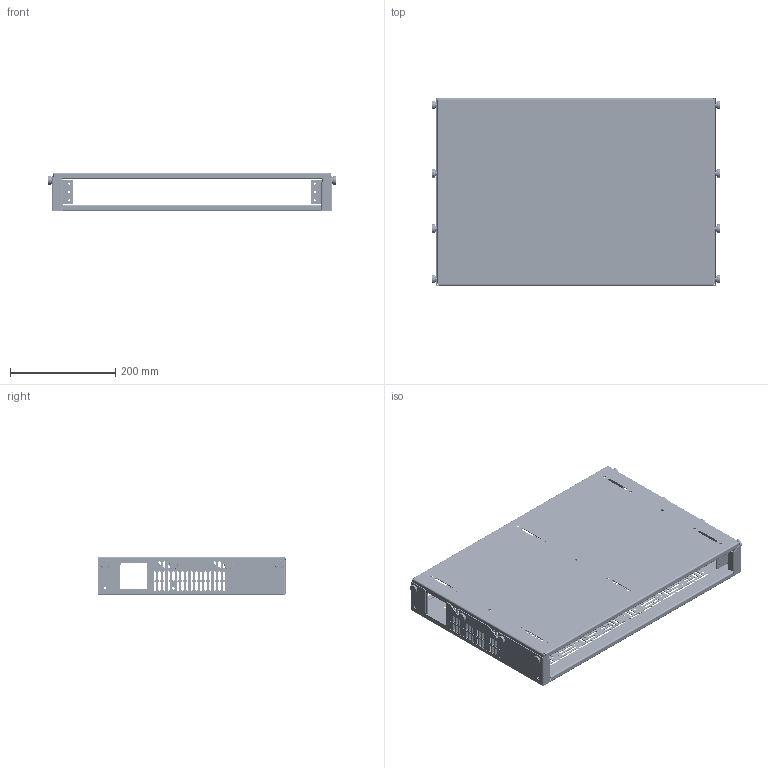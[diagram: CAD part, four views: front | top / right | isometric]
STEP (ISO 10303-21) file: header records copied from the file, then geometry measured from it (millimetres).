
FILE_DESCRIPTION((''),'2;1');
FILE_NAME('AUTBFR1_1U_ASM','2015-12-17T',('rrenderos'),('Middle Atlantic Products'),'PRO/ENGINEER BY PARAMETRIC TECHNOLOGY CORPORATION, 2014310','PRO/ENGINEER BY PARAMETRIC TECHNOLOGY CORPORATION, 2014310','');
FILE_SCHEMA(('CONFIG_CONTROL_DESIGN'));
Length unit declared in the file: inch
Products named in the file (11): BUTBT1; 80-032; PUTBT1_ASM; 500-00432; AUTBT1_ASM; BUTBB1; CVRR1; 500-00120; 500-00511; 500-00490; AUTBFR1_1U_ASM
Assembly tree (38 placements, depth 4):
  AUTBFR1_1U_ASM
    AUTBT1_ASM
      PUTBT1_ASM
        BUTBT1
        80-032  x12
      500-00432  x4
    BUTBB1
    CVRR1  x2
    500-00120  x4
    500-00511  x4
    500-00490  x8
Bounding box: 545.34 x 355.6 x 73.03 mm (x, y, z)
Volume: 691206.9 mm3; surface area: 955747.3 mm2
Topology: 36 solids, 36 shells, 4478 faces, 12554 edges, 8216 vertices
Faces by surface type: cylinder 2376, plane 1750, cone 244, torus 80, bspline 28
Entity records: 138792 total; most frequent: DIRECTION 24282, CARTESIAN_POINT 24230, ORIENTED_EDGE 23228, EDGE_CURVE 11614, AXIS2_PLACEMENT_3D 8654, VERTEX_POINT 7628, VECTOR 6974, LINE 6974
